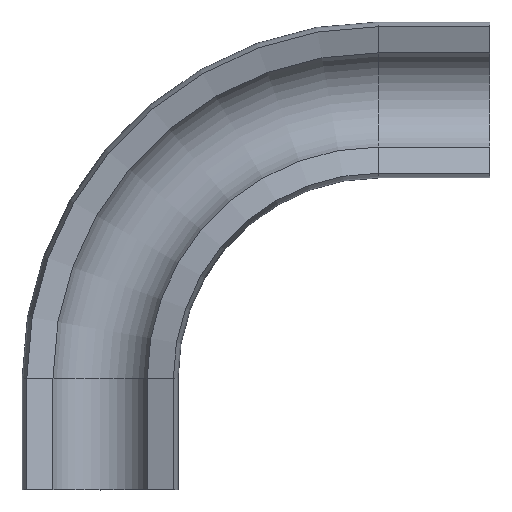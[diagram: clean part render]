
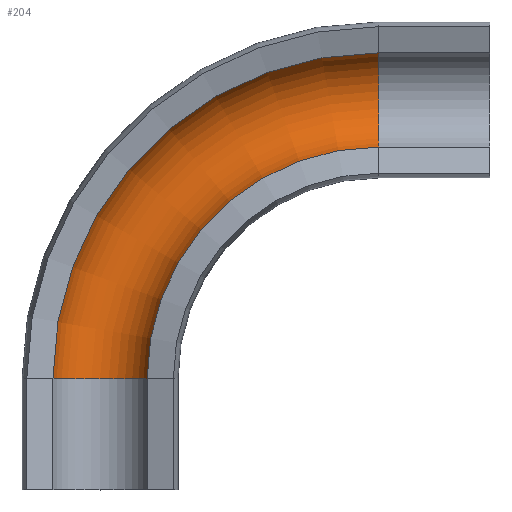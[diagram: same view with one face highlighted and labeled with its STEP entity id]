
A CAD part, top view. The second image highlights one B-rep face of the part: STEP entity #204.
In plain terms, the highlighted toroidal (fillet/blend) face has major radius 25 mm and minor radius 4.5 mm.
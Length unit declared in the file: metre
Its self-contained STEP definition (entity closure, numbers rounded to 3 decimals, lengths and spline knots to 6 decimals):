
#15=TOROIDAL_SURFACE('',#239,0.025,0.0045);
#78=ORIENTED_EDGE('',*,*,#125,.T.);
#79=ORIENTED_EDGE('',*,*,#119,.F.);
#80=ORIENTED_EDGE('',*,*,#127,.F.);
#81=ORIENTED_EDGE('',*,*,#128,.T.);
#119=EDGE_CURVE('',#145,#143,#157,.T.);
#125=EDGE_CURVE('',#148,#143,#161,.T.);
#127=EDGE_CURVE('',#149,#145,#162,.T.);
#128=EDGE_CURVE('',#149,#148,#163,.T.);
#143=VERTEX_POINT('',#335);
#145=VERTEX_POINT('',#341);
#148=VERTEX_POINT('',#354);
#149=VERTEX_POINT('',#358);
#157=CIRCLE('',#231,0.0045);
#161=CIRCLE('',#238,0.020771);
#162=CIRCLE('',#240,0.029229);
#163=CIRCLE('',#241,0.0045);
#172=EDGE_LOOP('',(#78,#79,#80,#81));
#186=FACE_BOUND('',#172,.T.);
#204=ADVANCED_FACE('',(#186),#15,.F.);
#231=AXIS2_PLACEMENT_3D('',#342,#271,#272);
#238=AXIS2_PLACEMENT_3D('',#353,#287,#288);
#239=AXIS2_PLACEMENT_3D('',#356,#290,#291);
#240=AXIS2_PLACEMENT_3D('',#357,#292,#293);
#241=AXIS2_PLACEMENT_3D('',#359,#294,#295);
#271=DIRECTION('',(-1.,0.,0.));
#272=DIRECTION('',(0.,0.94,0.342));
#287=DIRECTION('',(0.,0.,-1.));
#288=DIRECTION('',(-1.,0.,0.));
#290=DIRECTION('',(0.,0.,-1.));
#291=DIRECTION('',(-1.,0.,0.));
#292=DIRECTION('',(0.,0.,-1.));
#293=DIRECTION('',(-1.,0.,0.));
#294=DIRECTION('',(0.,-1.,0.));
#295=DIRECTION('',(-0.94,0.,0.342));
#335=CARTESIAN_POINT('',(-0.149997,0.089105,0.001539));
#341=CARTESIAN_POINT('',(-0.149997,0.097562,0.001539));
#342=CARTESIAN_POINT('',(-0.149997,0.093334,0.));
#353=CARTESIAN_POINT('',(-0.149997,0.068334,0.001539));
#354=CARTESIAN_POINT('',(-0.170768,0.068334,0.001539));
#356=CARTESIAN_POINT('',(-0.149997,0.068334,0.));
#357=CARTESIAN_POINT('',(-0.149997,0.068334,0.001539));
#358=CARTESIAN_POINT('',(-0.179225,0.068334,0.001539));
#359=CARTESIAN_POINT('',(-0.174997,0.068334,0.));
